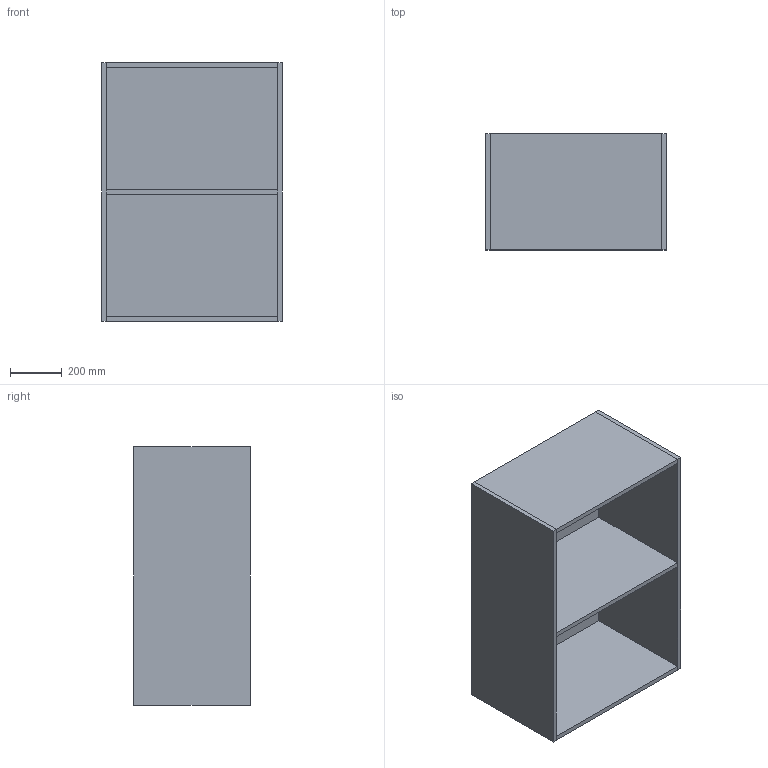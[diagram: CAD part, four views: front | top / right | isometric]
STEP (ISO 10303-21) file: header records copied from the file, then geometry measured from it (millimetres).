
FILE_DESCRIPTION(('Open CASCADE Model'),'2;1');
FILE_NAME('Open CASCADE Shape Model','2026-10-28T20:18:37',('Author'),( 'Open CASCADE'),'Open CASCADE STEP processor 7.8','Open CASCADE 7.8' ,'Unknown');
FILE_SCHEMA(('AUTOMOTIVE_DESIGN { 1 0 10303 214 1 1 1 1 }'));
Length unit declared in the file: millimetre
Products named in the file (7): Open CASCADE STEP translator 7.8 8; Open CASCADE STEP translator 7.8 8.1; Open CASCADE STEP translator 7.8 8.2; Open CASCADE STEP translator 7.8 8.3; Open CASCADE STEP translator 7.8 8.4; Open CASCADE STEP translator 7.8 8.5; Open CASCADE STEP translator 7.8 8.6
Assembly tree (6 placements, depth 2):
  Open CASCADE STEP translator 7.8 8
    Open CASCADE STEP translator 7.8 8.1
    Open CASCADE STEP translator 7.8 8.2
    Open CASCADE STEP translator 7.8 8.3
    Open CASCADE STEP translator 7.8 8.4
    Open CASCADE STEP translator 7.8 8.5
    Open CASCADE STEP translator 7.8 8.6
Bounding box: 700 x 450 x 1000 mm (x, y, z)
Volume: 43641792 mm3; surface area: 5131760 mm2
Topology: 6 solids, 6 shells, 36 faces, 72 edges, 48 vertices
Faces by surface type: plane 36
Entity records: 1960 total; most frequent: CARTESIAN_POINT 307, DIRECTION 302, LINE 216, VECTOR 216, ORIENTED_EDGE 144, PCURVE 144, DEFINITIONAL_REPRESENTATION 144, EDGE_CURVE 72
